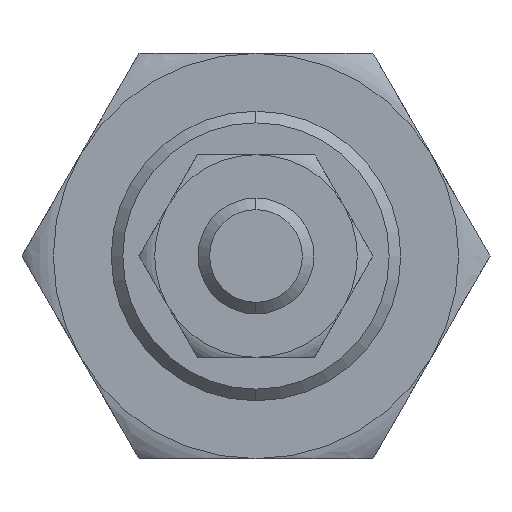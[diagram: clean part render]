
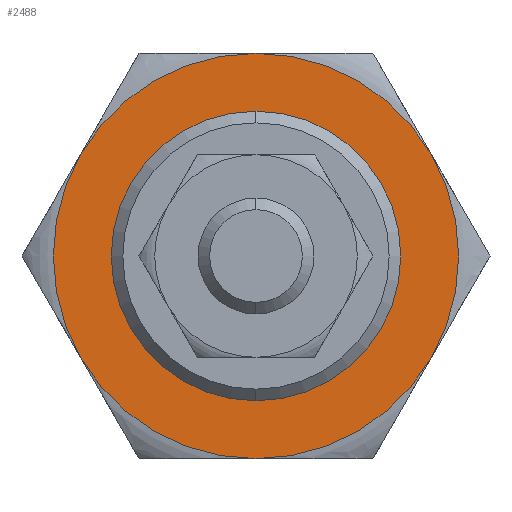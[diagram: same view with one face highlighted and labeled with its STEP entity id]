
A CAD part, left-side view. The second image highlights one B-rep face of the part: STEP entity #2488.
In plain terms, the highlighted planar face has unit normal (-1, 0, 0).
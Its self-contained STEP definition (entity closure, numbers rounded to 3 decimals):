
#58 = DIRECTION ( 'NONE',  ( 1., 0., 0. ) ) ;
#88 = EDGE_CURVE ( 'NONE', #1288, #435, #2457, .T. ) ;
#106 = EDGE_CURVE ( 'NONE', #435, #1288, #1706, .T. ) ;
#202 = EDGE_CURVE ( 'NONE', #2445, #1226, #1665, .T. ) ;
#242 = DIRECTION ( 'NONE',  ( 0., 0., -1. ) ) ;
#275 = AXIS2_PLACEMENT_3D ( 'NONE', #1524, #2542, #242 ) ;
#285 = DIRECTION ( 'NONE',  ( 0., 0., -1. ) ) ;
#296 = CARTESIAN_POINT ( 'NONE',  ( -1.5, -6.062, 3.5 ) ) ;
#306 = AXIS2_PLACEMENT_3D ( 'NONE', #2644, #2205, #1290 ) ;
#325 = AXIS2_PLACEMENT_3D ( 'NONE', #414, #912, #2371 ) ;
#373 = FACE_OUTER_BOUND ( 'NONE', #753, .T. ) ;
#396 = AXIS2_PLACEMENT_3D ( 'NONE', #1624, #2916, #1145 ) ;
#414 = CARTESIAN_POINT ( 'NONE',  ( -1.5, 0., 0. ) ) ;
#435 = VERTEX_POINT ( 'NONE', #1312 ) ;
#500 = VERTEX_POINT ( 'NONE', #1937 ) ;
#535 = CARTESIAN_POINT ( 'NONE',  ( -1.5, 0., 0. ) ) ;
#715 = PLANE ( 'NONE',  #396 ) ;
#736 = DIRECTION ( 'NONE',  ( 0., 0., -1. ) ) ;
#753 = EDGE_LOOP ( 'NONE', ( #915, #2008, #2579, #2541, #1430, #1901 ) ) ;
#811 = EDGE_CURVE ( 'NONE', #2445, #1160, #2354, .T. ) ;
#826 = DIRECTION ( 'NONE',  ( 0., 0., 1. ) ) ;
#912 = DIRECTION ( 'NONE',  ( 1., 0., 0. ) ) ;
#915 = ORIENTED_EDGE ( 'NONE', *, *, #1992, .F. ) ;
#936 = DIRECTION ( 'NONE',  ( 0., 0., -1. ) ) ;
#941 = CARTESIAN_POINT ( 'NONE',  ( -1.5, 6.062, 3.5 ) ) ;
#1021 = VERTEX_POINT ( 'NONE', #3008 ) ;
#1072 = EDGE_CURVE ( 'NONE', #1021, #500, #1371, .T. ) ;
#1075 = CARTESIAN_POINT ( 'NONE',  ( -1.5, 0., 0. ) ) ;
#1138 = DIRECTION ( 'NONE',  ( 1., 0., 0. ) ) ;
#1139 = AXIS2_PLACEMENT_3D ( 'NONE', #2407, #3067, #826 ) ;
#1145 = DIRECTION ( 'NONE',  ( 0., 0., -1. ) ) ;
#1160 = VERTEX_POINT ( 'NONE', #296 ) ;
#1162 = VERTEX_POINT ( 'NONE', #3011 ) ;
#1183 = EDGE_LOOP ( 'NONE', ( #2223, #2710 ) ) ;
#1226 = VERTEX_POINT ( 'NONE', #941 ) ;
#1242 = CIRCLE ( 'NONE', #325, 7. ) ;
#1288 = VERTEX_POINT ( 'NONE', #2662 ) ;
#1290 = DIRECTION ( 'NONE',  ( 0., 0., -1. ) ) ;
#1310 = AXIS2_PLACEMENT_3D ( 'NONE', #535, #1138, #936 ) ;
#1312 = CARTESIAN_POINT ( 'NONE',  ( -1.5, 0., 4.5 ) ) ;
#1371 = CIRCLE ( 'NONE', #275, 7. ) ;
#1383 = EDGE_CURVE ( 'NONE', #1162, #1226, #1242, .T. ) ;
#1430 = ORIENTED_EDGE ( 'NONE', *, *, #202, .T. ) ;
#1465 = FACE_BOUND ( 'NONE', #1183, .T. ) ;
#1524 = CARTESIAN_POINT ( 'NONE',  ( -1.5, 0., 0. ) ) ;
#1624 = CARTESIAN_POINT ( 'NONE',  ( -1.5, 0., 0. ) ) ;
#1665 = CIRCLE ( 'NONE', #1139, 7. ) ;
#1706 = CIRCLE ( 'NONE', #2481, 4.5 ) ;
#1796 = DIRECTION ( 'NONE',  ( 1., 0., 0. ) ) ;
#1814 = AXIS2_PLACEMENT_3D ( 'NONE', #1075, #1796, #285 ) ;
#1839 = CIRCLE ( 'NONE', #1310, 7. ) ;
#1901 = ORIENTED_EDGE ( 'NONE', *, *, #1383, .F. ) ;
#1937 = CARTESIAN_POINT ( 'NONE',  ( -1.5, 0., -7. ) ) ;
#1992 = EDGE_CURVE ( 'NONE', #500, #1162, #1839, .T. ) ;
#2008 = ORIENTED_EDGE ( 'NONE', *, *, #1072, .F. ) ;
#2205 = DIRECTION ( 'NONE',  ( 1., 0., 0. ) ) ;
#2223 = ORIENTED_EDGE ( 'NONE', *, *, #88, .T. ) ;
#2310 = AXIS2_PLACEMENT_3D ( 'NONE', #3003, #2576, #2891 ) ;
#2354 = CIRCLE ( 'NONE', #1814, 7. ) ;
#2371 = DIRECTION ( 'NONE',  ( 0., 0., -1. ) ) ;
#2407 = CARTESIAN_POINT ( 'NONE',  ( -1.5, 0., 0. ) ) ;
#2445 = VERTEX_POINT ( 'NONE', #2933 ) ;
#2457 = CIRCLE ( 'NONE', #306, 4.5 ) ;
#2481 = AXIS2_PLACEMENT_3D ( 'NONE', #2904, #58, #736 ) ;
#2488 = ADVANCED_FACE ( 'NONE', ( #1465, #373 ), #715, .F. ) ;
#2541 = ORIENTED_EDGE ( 'NONE', *, *, #811, .F. ) ;
#2542 = DIRECTION ( 'NONE',  ( 1., 0., 0. ) ) ;
#2576 = DIRECTION ( 'NONE',  ( 1., 0., 0. ) ) ;
#2579 = ORIENTED_EDGE ( 'NONE', *, *, #2945, .F. ) ;
#2644 = CARTESIAN_POINT ( 'NONE',  ( -1.5, 0., 0. ) ) ;
#2662 = CARTESIAN_POINT ( 'NONE',  ( -1.5, 0., -4.5 ) ) ;
#2710 = ORIENTED_EDGE ( 'NONE', *, *, #106, .T. ) ;
#2871 = CIRCLE ( 'NONE', #2310, 7. ) ;
#2891 = DIRECTION ( 'NONE',  ( 0., 0., -1. ) ) ;
#2904 = CARTESIAN_POINT ( 'NONE',  ( -1.5, 0., 0. ) ) ;
#2916 = DIRECTION ( 'NONE',  ( 1., 0., 0. ) ) ;
#2933 = CARTESIAN_POINT ( 'NONE',  ( -1.5, 0., 7. ) ) ;
#2945 = EDGE_CURVE ( 'NONE', #1160, #1021, #2871, .T. ) ;
#3003 = CARTESIAN_POINT ( 'NONE',  ( -1.5, 0., 0. ) ) ;
#3008 = CARTESIAN_POINT ( 'NONE',  ( -1.5, -6.062, -3.5 ) ) ;
#3011 = CARTESIAN_POINT ( 'NONE',  ( -1.5, 6.062, -3.5 ) ) ;
#3067 = DIRECTION ( 'NONE',  ( -1., 0., 0. ) ) ;
